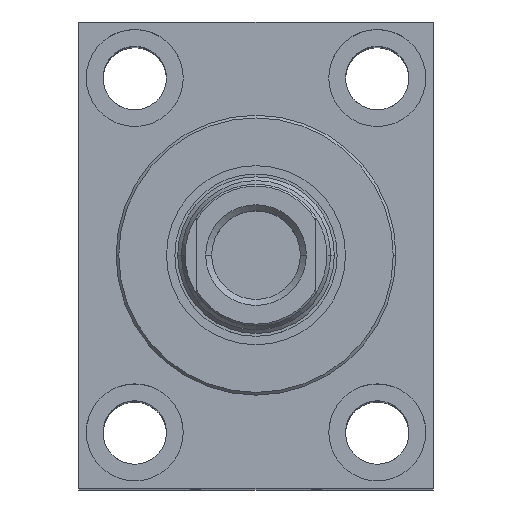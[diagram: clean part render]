
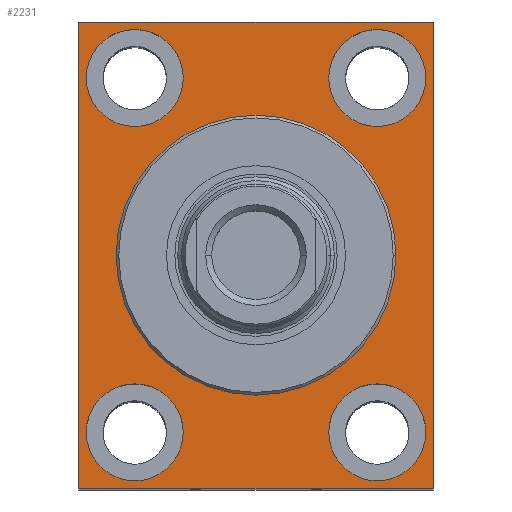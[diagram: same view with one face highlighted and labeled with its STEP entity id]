
A CAD part, top view. The second image highlights one B-rep face of the part: STEP entity #2231.
In plain terms, the highlighted planar face has unit normal (0, 0, 1).
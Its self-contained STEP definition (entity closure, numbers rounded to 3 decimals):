
#158 = LINE ( 'NONE', #7132, #1641 ) ;
#181 = EDGE_LOOP ( 'NONE', ( #2442, #4766 ) ) ;
#199 = CARTESIAN_POINT ( 'NONE',  ( 32.5, -47.5, -14. ) ) ;
#279 = ORIENTED_EDGE ( 'NONE', *, *, #7343, .T. ) ;
#322 = CARTESIAN_POINT ( 'NONE',  ( -47.5, 62.5, -14. ) ) ;
#368 = ORIENTED_EDGE ( 'NONE', *, *, #3412, .T. ) ;
#396 = AXIS2_PLACEMENT_3D ( 'NONE', #3612, #3897, #6737 ) ;
#397 = DIRECTION ( 'NONE',  ( 0., 0., -1. ) ) ;
#445 = DIRECTION ( 'NONE',  ( -1., 0., 0. ) ) ;
#449 = VERTEX_POINT ( 'NONE', #322 ) ;
#459 = CIRCLE ( 'NONE', #1222, 37.501 ) ;
#508 = EDGE_LOOP ( 'NONE', ( #279, #6045 ) ) ;
#512 = DIRECTION ( 'NONE',  ( 0., 1., 0. ) ) ;
#810 = DIRECTION ( 'NONE',  ( 0., 0., -1. ) ) ;
#903 = DIRECTION ( 'NONE',  ( -1., 0., 0. ) ) ;
#940 = CARTESIAN_POINT ( 'NONE',  ( 32.5, 47.5, -14. ) ) ;
#944 = FACE_BOUND ( 'NONE', #6733, .T. ) ;
#1018 = DIRECTION ( 'NONE',  ( 0., 0., -1. ) ) ;
#1046 = CARTESIAN_POINT ( 'NONE',  ( -45.5, 47.5, -14. ) ) ;
#1149 = VERTEX_POINT ( 'NONE', #6167 ) ;
#1158 = VECTOR ( 'NONE', #1549, 1000. ) ;
#1222 = AXIS2_PLACEMENT_3D ( 'NONE', #5329, #397, #2950 ) ;
#1251 = CARTESIAN_POINT ( 'NONE',  ( 0., 0., -14. ) ) ;
#1408 = CIRCLE ( 'NONE', #6095, 13. ) ;
#1477 = PLANE ( 'NONE',  #6470 ) ;
#1548 = VERTEX_POINT ( 'NONE', #5583 ) ;
#1549 = DIRECTION ( 'NONE',  ( 0., -1., 0. ) ) ;
#1641 = VECTOR ( 'NONE', #5808, 1000. ) ;
#1659 = VECTOR ( 'NONE', #2864, 1000. ) ;
#1704 = DIRECTION ( 'NONE',  ( -1., 0., 0. ) ) ;
#1747 = VERTEX_POINT ( 'NONE', #4564 ) ;
#1816 = AXIS2_PLACEMENT_3D ( 'NONE', #4825, #4137, #7871 ) ;
#2052 = CARTESIAN_POINT ( 'NONE',  ( -47.5, 62.5, -14. ) ) ;
#2070 = CARTESIAN_POINT ( 'NONE',  ( 0., -37.501, -14. ) ) ;
#2083 = CARTESIAN_POINT ( 'NONE',  ( 19.5, -47.5, -14. ) ) ;
#2156 = EDGE_LOOP ( 'NONE', ( #5030, #7782 ) ) ;
#2201 = DIRECTION ( 'NONE',  ( 1., 0., 0. ) ) ;
#2231 = ADVANCED_FACE ( 'NONE', ( #6564, #944, #7645, #2708, #2744, #7713 ), #1477, .T. ) ;
#2242 = VERTEX_POINT ( 'NONE', #2281 ) ;
#2262 = CARTESIAN_POINT ( 'NONE',  ( 45.5, -47.5, -14. ) ) ;
#2281 = CARTESIAN_POINT ( 'NONE',  ( -19.5, -47.5, -14. ) ) ;
#2289 = EDGE_CURVE ( 'NONE', #8060, #7306, #459, .T. ) ;
#2324 = DIRECTION ( 'NONE',  ( 0., 0., -1. ) ) ;
#2332 = VERTEX_POINT ( 'NONE', #2863 ) ;
#2442 = ORIENTED_EDGE ( 'NONE', *, *, #7561, .T. ) ;
#2566 = EDGE_CURVE ( 'NONE', #5275, #3849, #5470, .T. ) ;
#2628 = CIRCLE ( 'NONE', #6132, 37.501 ) ;
#2708 = FACE_BOUND ( 'NONE', #2156, .T. ) ;
#2712 = LINE ( 'NONE', #7717, #5438 ) ;
#2744 = FACE_BOUND ( 'NONE', #6308, .T. ) ;
#2749 = DIRECTION ( 'NONE',  ( 0., 1., 0. ) ) ;
#2863 = CARTESIAN_POINT ( 'NONE',  ( -47.5, -62.5, -14. ) ) ;
#2864 = DIRECTION ( 'NONE',  ( -1., 0., 0. ) ) ;
#2892 = CIRCLE ( 'NONE', #396, 13. ) ;
#2950 = DIRECTION ( 'NONE',  ( 0., 1., 0. ) ) ;
#2952 = LINE ( 'NONE', #4262, #1659 ) ;
#2965 = EDGE_CURVE ( 'NONE', #6143, #3812, #7962, .T. ) ;
#3232 = DIRECTION ( 'NONE',  ( -1., 0., 0. ) ) ;
#3256 = EDGE_CURVE ( 'NONE', #3849, #5275, #1408, .T. ) ;
#3374 = CIRCLE ( 'NONE', #4029, 13. ) ;
#3412 = EDGE_CURVE ( 'NONE', #1548, #449, #2952, .T. ) ;
#3435 = CARTESIAN_POINT ( 'NONE',  ( 19.5, 47.5, -14. ) ) ;
#3498 = EDGE_CURVE ( 'NONE', #2242, #7847, #3374, .T. ) ;
#3530 = CARTESIAN_POINT ( 'NONE',  ( -32.5, 47.5, -14. ) ) ;
#3550 = CARTESIAN_POINT ( 'NONE',  ( -45.5, -47.5, -14. ) ) ;
#3612 = CARTESIAN_POINT ( 'NONE',  ( -32.5, -47.5, -14. ) ) ;
#3750 = EDGE_CURVE ( 'NONE', #3812, #6143, #6949, .T. ) ;
#3812 = VERTEX_POINT ( 'NONE', #7049 ) ;
#3849 = VERTEX_POINT ( 'NONE', #2083 ) ;
#3897 = DIRECTION ( 'NONE',  ( 0., 0., -1. ) ) ;
#3985 = CARTESIAN_POINT ( 'NONE',  ( 0., 0., -14. ) ) ;
#4029 = AXIS2_PLACEMENT_3D ( 'NONE', #6681, #2324, #6728 ) ;
#4036 = AXIS2_PLACEMENT_3D ( 'NONE', #7632, #6507, #3232 ) ;
#4114 = ORIENTED_EDGE ( 'NONE', *, *, #4834, .T. ) ;
#4137 = DIRECTION ( 'NONE',  ( 0., 0., -1. ) ) ;
#4262 = CARTESIAN_POINT ( 'NONE',  ( 47.5, 62.5, -14. ) ) ;
#4431 = AXIS2_PLACEMENT_3D ( 'NONE', #3530, #1018, #445 ) ;
#4444 = ORIENTED_EDGE ( 'NONE', *, *, #6048, .T. ) ;
#4564 = CARTESIAN_POINT ( 'NONE',  ( 45.5, 47.5, -14. ) ) ;
#4584 = CIRCLE ( 'NONE', #7853, 13. ) ;
#4637 = ORIENTED_EDGE ( 'NONE', *, *, #5504, .T. ) ;
#4656 = CARTESIAN_POINT ( 'NONE',  ( -32.5, 47.5, -14. ) ) ;
#4766 = ORIENTED_EDGE ( 'NONE', *, *, #2289, .T. ) ;
#4785 = CARTESIAN_POINT ( 'NONE',  ( 0., 37.501, -14. ) ) ;
#4825 = CARTESIAN_POINT ( 'NONE',  ( 32.5, 47.5, -14. ) ) ;
#4834 = EDGE_CURVE ( 'NONE', #7847, #2242, #2892, .T. ) ;
#4934 = ORIENTED_EDGE ( 'NONE', *, *, #7259, .T. ) ;
#5030 = ORIENTED_EDGE ( 'NONE', *, *, #3256, .T. ) ;
#5062 = ORIENTED_EDGE ( 'NONE', *, *, #2965, .T. ) ;
#5275 = VERTEX_POINT ( 'NONE', #2262 ) ;
#5319 = DIRECTION ( 'NONE',  ( -1., 0., 0. ) ) ;
#5329 = CARTESIAN_POINT ( 'NONE',  ( 0., 0., -14. ) ) ;
#5438 = VECTOR ( 'NONE', #2749, 1000. ) ;
#5470 = CIRCLE ( 'NONE', #4036, 13. ) ;
#5490 = CIRCLE ( 'NONE', #1816, 13. ) ;
#5504 = EDGE_CURVE ( 'NONE', #1149, #1548, #2712, .T. ) ;
#5583 = CARTESIAN_POINT ( 'NONE',  ( 47.5, 62.5, -14. ) ) ;
#5808 = DIRECTION ( 'NONE',  ( 1., 0., 0. ) ) ;
#6002 = DIRECTION ( 'NONE',  ( 0., 0., 1. ) ) ;
#6045 = ORIENTED_EDGE ( 'NONE', *, *, #7360, .T. ) ;
#6048 = EDGE_CURVE ( 'NONE', #2332, #1149, #158, .T. ) ;
#6095 = AXIS2_PLACEMENT_3D ( 'NONE', #199, #7175, #903 ) ;
#6132 = AXIS2_PLACEMENT_3D ( 'NONE', #1251, #6301, #512 ) ;
#6143 = VERTEX_POINT ( 'NONE', #1046 ) ;
#6167 = CARTESIAN_POINT ( 'NONE',  ( 47.5, -62.5, -14. ) ) ;
#6301 = DIRECTION ( 'NONE',  ( 0., 0., -1. ) ) ;
#6308 = EDGE_LOOP ( 'NONE', ( #4114, #7901 ) ) ;
#6470 = AXIS2_PLACEMENT_3D ( 'NONE', #3985, #6002, #2201 ) ;
#6507 = DIRECTION ( 'NONE',  ( 0., 0., -1. ) ) ;
#6535 = VERTEX_POINT ( 'NONE', #3435 ) ;
#6564 = FACE_BOUND ( 'NONE', #181, .T. ) ;
#6681 = CARTESIAN_POINT ( 'NONE',  ( -32.5, -47.5, -14. ) ) ;
#6682 = AXIS2_PLACEMENT_3D ( 'NONE', #4656, #810, #5319 ) ;
#6728 = DIRECTION ( 'NONE',  ( -1., 0., 0. ) ) ;
#6733 = EDGE_LOOP ( 'NONE', ( #5062, #7791 ) ) ;
#6737 = DIRECTION ( 'NONE',  ( -1., 0., 0. ) ) ;
#6949 = CIRCLE ( 'NONE', #6682, 13. ) ;
#7049 = CARTESIAN_POINT ( 'NONE',  ( -19.5, 47.5, -14. ) ) ;
#7132 = CARTESIAN_POINT ( 'NONE',  ( -47.5, -62.5, -14. ) ) ;
#7175 = DIRECTION ( 'NONE',  ( 0., 0., -1. ) ) ;
#7259 = EDGE_CURVE ( 'NONE', #449, #2332, #7675, .T. ) ;
#7306 = VERTEX_POINT ( 'NONE', #4785 ) ;
#7343 = EDGE_CURVE ( 'NONE', #6535, #1747, #5490, .T. ) ;
#7360 = EDGE_CURVE ( 'NONE', #1747, #6535, #4584, .T. ) ;
#7375 = DIRECTION ( 'NONE',  ( 0., 0., -1. ) ) ;
#7530 = EDGE_LOOP ( 'NONE', ( #4934, #4444, #4637, #368 ) ) ;
#7561 = EDGE_CURVE ( 'NONE', #7306, #8060, #2628, .T. ) ;
#7632 = CARTESIAN_POINT ( 'NONE',  ( 32.5, -47.5, -14. ) ) ;
#7645 = FACE_BOUND ( 'NONE', #508, .T. ) ;
#7675 = LINE ( 'NONE', #2052, #1158 ) ;
#7713 = FACE_OUTER_BOUND ( 'NONE', #7530, .T. ) ;
#7717 = CARTESIAN_POINT ( 'NONE',  ( 47.5, -62.5, -14. ) ) ;
#7782 = ORIENTED_EDGE ( 'NONE', *, *, #2566, .T. ) ;
#7791 = ORIENTED_EDGE ( 'NONE', *, *, #3750, .T. ) ;
#7847 = VERTEX_POINT ( 'NONE', #3550 ) ;
#7853 = AXIS2_PLACEMENT_3D ( 'NONE', #940, #7375, #1704 ) ;
#7871 = DIRECTION ( 'NONE',  ( -1., 0., 0. ) ) ;
#7901 = ORIENTED_EDGE ( 'NONE', *, *, #3498, .T. ) ;
#7962 = CIRCLE ( 'NONE', #4431, 13. ) ;
#8060 = VERTEX_POINT ( 'NONE', #2070 ) ;
